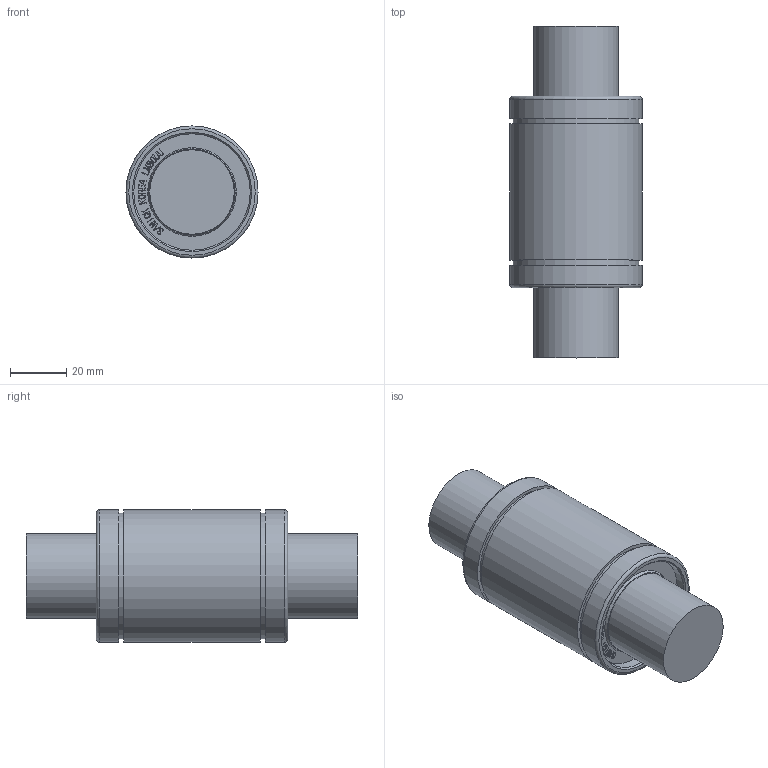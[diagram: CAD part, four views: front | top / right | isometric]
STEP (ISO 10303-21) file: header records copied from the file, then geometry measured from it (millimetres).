
FILE_DESCRIPTION(/* description */ (''),/* implementation_level */ '2;1');
FILE_NAME(/* name */ 'W:\(01) 2024년 홈페이지 CAD파일 최신화\LME\IPT\LME30UU.stp',/* time_stamp */ '2025-01-25T08:56:16+09:00',/* author */ ('서우현'),/* organization */ (''),/* preprocessor_version */ 'ST-DEVELOPER v17.2',/* originating_system */ 'Autodesk Inventor 2019',/* authorisation */ '');
FILE_SCHEMA (('AUTOMOTIVE_DESIGN { 1 0 10303 214 3 1 1 }'));
Length unit declared in the file: millimetre
Products named in the file (1): LM5
Bounding box: 47 x 118 x 47 mm (x, y, z)
Volume: 147810.3 mm3; surface area: 20396.9 mm2
Topology: 1 solids, 1 shells, 851 faces, 2407 edges, 1612 vertices
Faces by surface type: bspline 616, plane 220, cylinder 9, cone 4, torus 2
Full cylindrical faces by diameter (mm): 30 x2, 41.4 x2, 44.5 x2, 47 x3
Entity records: 29147 total; most frequent: CARTESIAN_POINT 10415, ORIENTED_EDGE 4814, EDGE_CURVE 2407, DIRECTION 1701, VERTEX_POINT 1612, B_SPLINE_CURVE_WITH_KNOTS 1232, LINE 1121, VECTOR 1121
